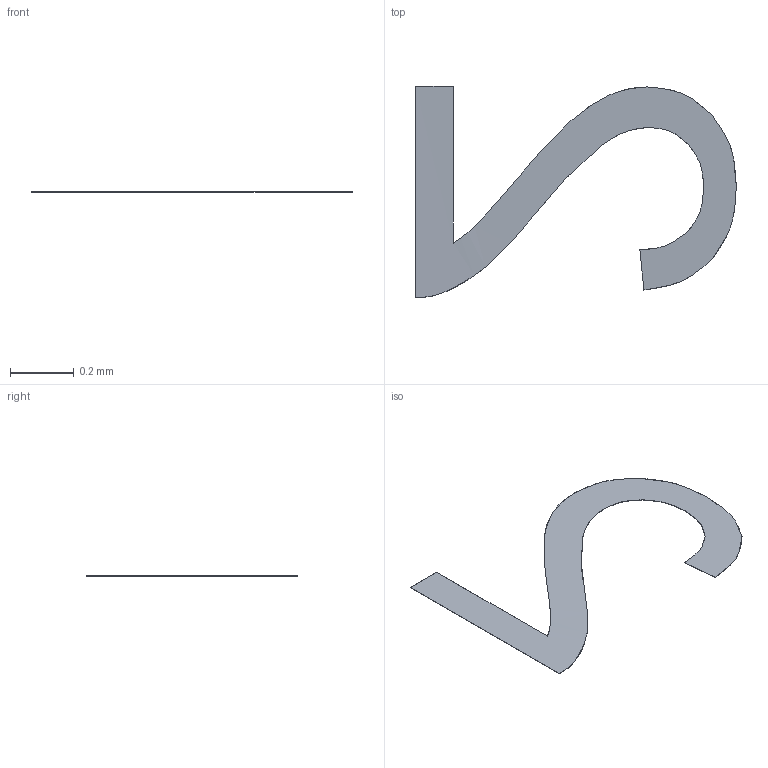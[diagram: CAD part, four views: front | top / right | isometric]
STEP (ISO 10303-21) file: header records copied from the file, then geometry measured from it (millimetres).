
FILE_DESCRIPTION(/* description */ ('STEP AP242 Edition 2','CAx-IF Rec.Pracs.---Representation and Presentation of Product Manufacturing Information (PMI)---4.0---2014-10-13','CAx-IF Rec.Pracs.---3D Tessellated Geometry---0.4---2014-09-14','2;1','CAx-IF Rec.Pracs.---User Defined Attributes---1.5---2016-08-15'),/* implementation_level */ '2;1');
FILE_NAME(/* name */ 'Drone Layout - Surface 339',/* time_stamp */ '2026-10-04T22:22:56Z',/* author */ (''),/* organization */ (''),/* preprocessor_version */ 'ST-DEVELOPER v20',/* originating_system */ 'ONSHAPE BY PTC INC, 1.221',/* authorisation */ ' ');
FILE_SCHEMA (('AP242_MANAGED_MODEL_BASED_3D_ENGINEERING_MIM_LF { 1 0 10303 442 3 1 4 }'));
Length unit declared in the file: metre
Products named in the file (1): VL53L0X:1__Body35
Bounding box: 1 x 0.66 x 0 mm (x, y, z)
Volume: 0 mm3; surface area: 0.5 mm2
Topology: 1 solids, 1 shells, 24 faces, 64 edges, 42 vertices
Faces by surface type: bspline 16, plane 6, cylinder 2
Entity records: 893 total; most frequent: CARTESIAN_POINT 387, ORIENTED_EDGE 128, EDGE_CURVE 64, DIRECTION 54, VERTEX_POINT 42, B_SPLINE_CURVE_WITH_KNOTS 32, LINE 28, VECTOR 28
